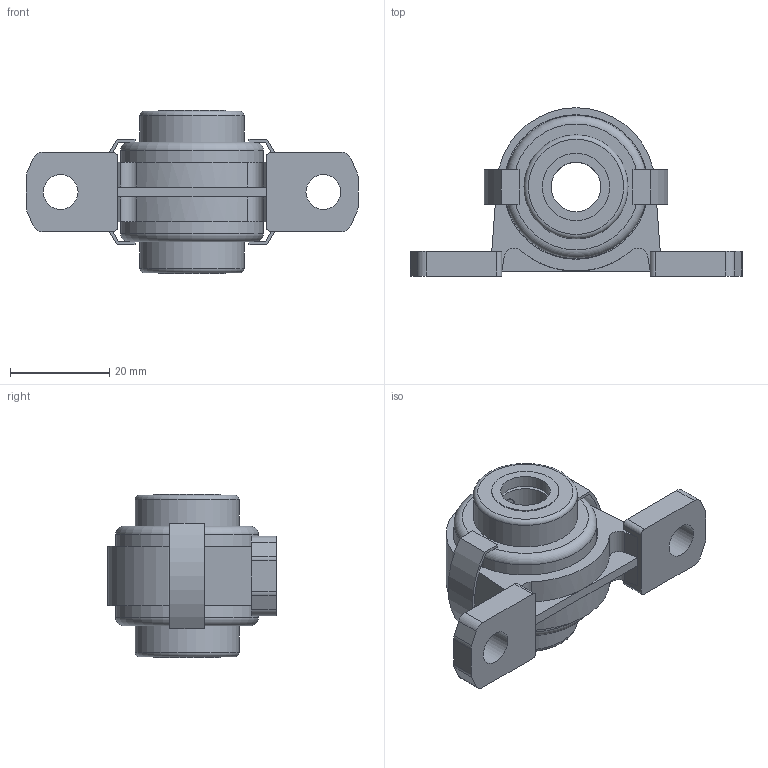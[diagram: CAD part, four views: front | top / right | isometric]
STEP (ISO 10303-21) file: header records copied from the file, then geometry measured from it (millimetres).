
FILE_DESCRIPTION((''),'2;1');
FILE_NAME('\\Ts-tgl068\j-cad-d-base\00.3DCADデータ作成フォルダ\11.エコシリーズ\MUSP000\MUSP000C.stp','2014-11-12T09:21:52',('btec_1106_2'),(''),'Autodesk Inventor 2012','Autodesk Inventor 2012','');
FILE_SCHEMA(('AUTOMOTIVE_DESIGN { 1 0 10303 214 1 1 1 1 }'));
Length unit declared in the file: millimetre
Products named in the file (5): MUSP000C; SP000; U000; 000CP10; 0CLP
Assembly tree (6 placements, depth 2):
  MUSP000C
    SP000
    U000
    000CP10  x2
    0CLP  x2
Bounding box: 67 x 34 x 33 mm (x, y, z)
Volume: 12685.6 mm3; surface area: 14527.9 mm2
Topology: 6 solids, 6 shells, 135 faces, 312 edges, 204 vertices
Faces by surface type: plane 74, cylinder 48, torus 8, cone 3, sphere 2
Full cylindrical faces by diameter (mm): 3.5 x1, 4 x1, 7 x2, 10 x3, 13.6 x4, 14.8 x1, 17 x1, 20.4 x2, 21 x2, 28.2 x2, 28.8 x2, 29.2 x2
Entity records: 3214 total; most frequent: CARTESIAN_POINT 634, DIRECTION 538, ORIENTED_EDGE 444, EDGE_CURVE 222, AXIS2_PLACEMENT_3D 204, VERTEX_POINT 160, EDGE_LOOP 156, VECTOR 130
